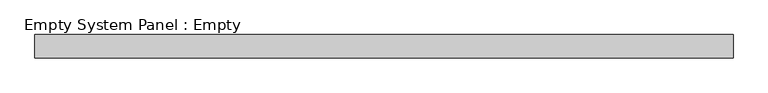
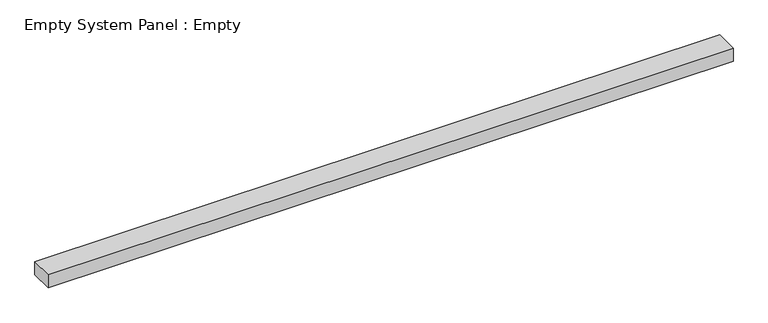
"""IFC4 building model written with IfcOpenShell, lengths in millimetres: plate geometry, Empty System Panel : Empty."""

from ifc_helpers import new_model, si_unit, origin, origin_with_axes, place, context, project, spatial, polyline, outline, extrude, source, transform, mapped, element, save


def empty_system_panel_empty_6ca5a913(model_context):
    return source(origin(), model_context, "Body", "SweptSolid", [
        extrude(outline(polyline([(1500.0, 50.0), (-1500.0, 50.0), (-1500.0, 150.0), (1500.0, 150.0), (1500.0, 50.0)])), origin_with_axes(), (0.0, 0.0, 1.0), 60.218741),
    ])


if __name__ == "__main__":
    model = new_model("IFC4")
    model_context = context("Model", 3, world=origin())
    ifc_project = project(units=[si_unit("LENGTHUNIT", "METRE", prefix="MILLI")], contexts=[model_context])
    site = spatial("IfcSite", under=ifc_project)
    building = spatial("IfcBuilding", under=site)
    placement = place(None, origin())
    empty_system_panel_empty_shape = empty_system_panel_empty_6ca5a913(model_context)
    element("IfcPlate", 1, ObjectType="Empty System Panel : Empty", at=placement, inside=building, context=model_context, shape_type="MappedRepresentation", body=[
        mapped(empty_system_panel_empty_shape, transform((0.0, 0.0, 0.0), x_axis=(1.0, 0.0, 0.0), y_axis=(0.0, 1.0, 0.0), z_axis=(0.0, 0.0, 1.0))),
    ])
    save(model, "model.ifc")
